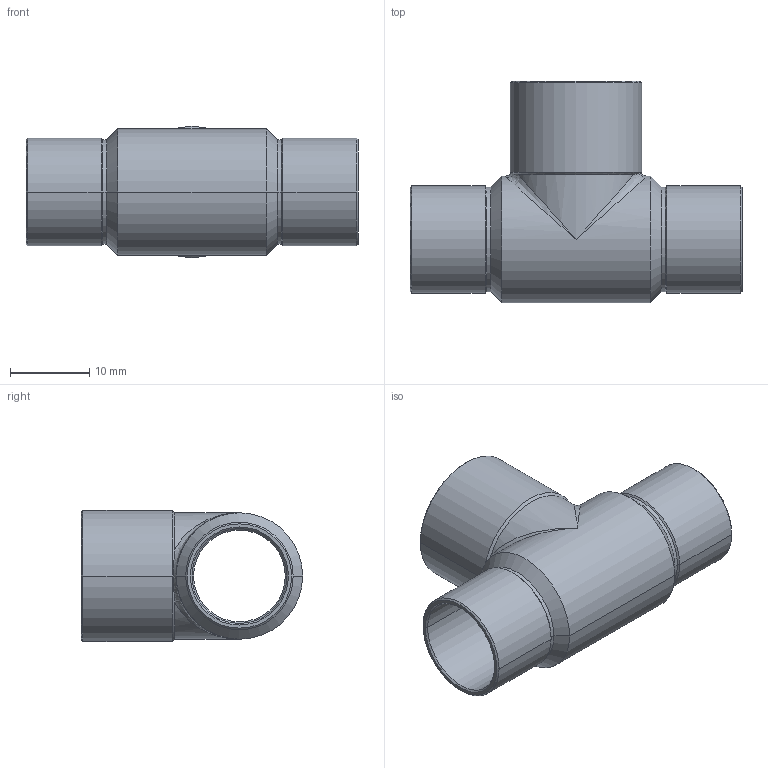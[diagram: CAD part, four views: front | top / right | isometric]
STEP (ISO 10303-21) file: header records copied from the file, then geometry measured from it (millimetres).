
FILE_DESCRIPTION((''),'2;1');
FILE_NAME('P:\Bouwmaten\z-maattekeningen 3D\5000\5130\5130121512.stp','2005-10-26T11:52:29',('Kris'),(''),'Autodesk Inventor 8','Autodesk Inventor 8','');
FILE_SCHEMA(('AUTOMOTIVE_DESIGN { 1 0 10303 214 1 1 1 1 }'));
Length unit declared in the file: millimetre
Products named in the file (1): 5130121512
Bounding box: 42 x 28 x 16.6 mm (x, y, z)
Volume: 1893.2 mm3; surface area: 4876.2 mm2
Topology: 1 solids, 1 shells, 67 faces, 154 edges, 80 vertices
Faces by surface type: cone 28, cylinder 20, bspline 16, plane 3
Entity records: 2403 total; most frequent: CARTESIAN_POINT 938, DIRECTION 322, ORIENTED_EDGE 292, EDGE_CURVE 146, AXIS2_PLACEMENT_3D 132, VERTEX_POINT 80, EDGE_LOOP 70, FACE_OUTER_BOUND 67
